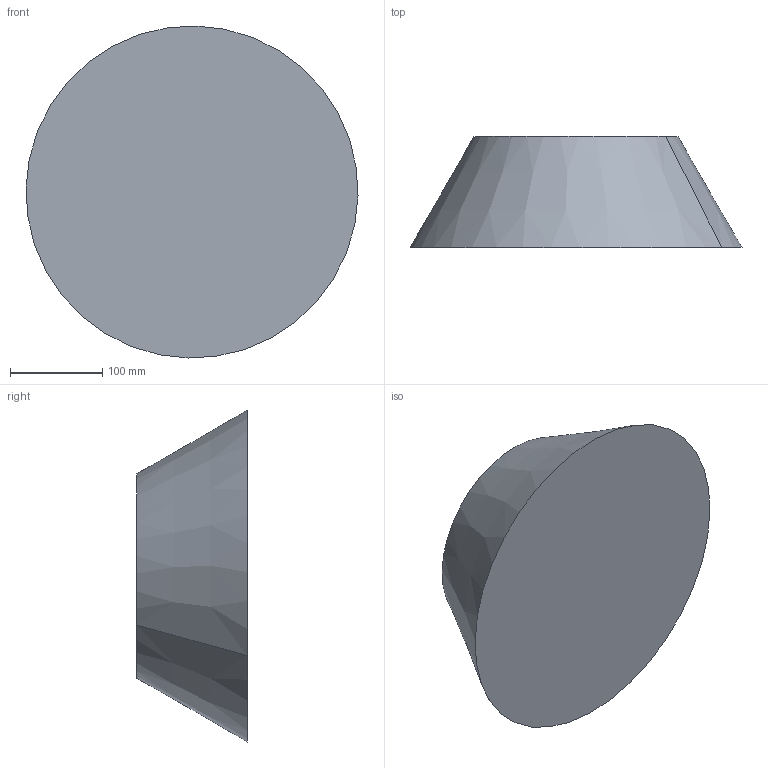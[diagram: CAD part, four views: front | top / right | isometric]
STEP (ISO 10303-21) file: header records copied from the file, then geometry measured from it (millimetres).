
FILE_DESCRIPTION(('CATIA V5 STEP Exchange'),'2;1');
FILE_NAME('C:\_Andres\UNIVERSIDAD\IQS\ASIGNATURAS\DAO\EXF\EXF-16172c\2inicio\Munar_Parra_Ej09_v20.stp','2017-03-05T22:13:13+00:00',('none'),('none'),'CATIA Version 5-6 Release 2014 SP1 HF18','CATIA V5 STEP AP203','none');
FILE_SCHEMA(('CONFIG_CONTROL_DESIGN'));
Length unit declared in the file: millimetre
Products named in the file (1): Munar_Parra_Ej09_v20
Bounding box: 359.9 x 120 x 359.9 mm (x, y, z)
Volume: 8108476.1 mm3; surface area: 269050.8 mm2
Topology: 1 solids, 2 shells, 8 faces, 12 edges, 8 vertices
Faces by surface type: plane 4, cone 2, cylinder 2
Entity records: 205 total; most frequent: CARTESIAN_POINT 27, DIRECTION 24, ORIENTED_EDGE 24, AXIS2_PLACEMENT_3D 15, EDGE_CURVE 12, ADVANCED_FACE 8, CIRCLE 8, EDGE_LOOP 8
